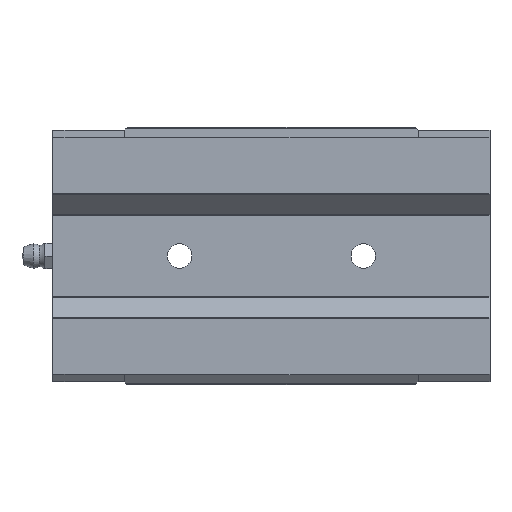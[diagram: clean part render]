
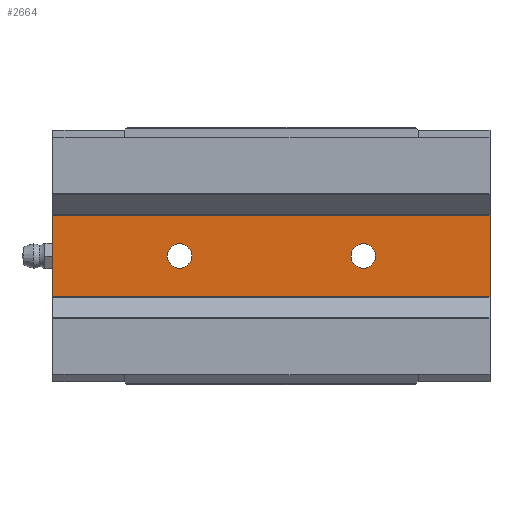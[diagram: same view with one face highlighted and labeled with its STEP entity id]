
A CAD part, front view. The second image highlights one B-rep face of the part: STEP entity #2664.
In plain terms, the highlighted planar face has unit normal (0, -1, 0).
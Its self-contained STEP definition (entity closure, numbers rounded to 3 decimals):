
#185=CIRCLE('',#2916,3.324);
#186=CIRCLE('',#2917,3.324);
#743=ORIENTED_EDGE('',*,*,#1218,.F.);
#744=ORIENTED_EDGE('',*,*,#1219,.F.);
#745=ORIENTED_EDGE('',*,*,#1040,.F.);
#746=ORIENTED_EDGE('',*,*,#1217,.F.);
#747=ORIENTED_EDGE('',*,*,#983,.T.);
#748=ORIENTED_EDGE('',*,*,#1220,.T.);
#983=EDGE_CURVE('',#1339,#1338,#1589,.T.);
#1040=EDGE_CURVE('',#1392,#1393,#1625,.T.);
#1217=EDGE_CURVE('',#1339,#1392,#1775,.T.);
#1218=EDGE_CURVE('',#1491,#1491,#185,.T.);
#1219=EDGE_CURVE('',#1492,#1492,#186,.T.);
#1220=EDGE_CURVE('',#1338,#1393,#1776,.T.);
#1338=VERTEX_POINT('',#3904);
#1339=VERTEX_POINT('',#3906);
#1392=VERTEX_POINT('',#4016);
#1393=VERTEX_POINT('',#4018);
#1491=VERTEX_POINT('',#4376);
#1492=VERTEX_POINT('',#4378);
#1589=LINE('',#3905,#1811);
#1625=LINE('',#4017,#1847);
#1775=LINE('',#4373,#1997);
#1776=LINE('',#4379,#1998);
#1811=VECTOR('',#3103,1000.);
#1847=VECTOR('',#3183,1000.);
#1997=VECTOR('',#3549,1000.);
#1998=VECTOR('',#3556,1000.);
#2113=EDGE_LOOP('',(#743));
#2114=EDGE_LOOP('',(#744));
#2115=EDGE_LOOP('',(#745,#746,#747,#748));
#2347=FACE_BOUND('',#2113,.T.);
#2348=FACE_BOUND('',#2114,.T.);
#2349=FACE_BOUND('',#2115,.T.);
#2550=PLANE('',#2915);
#2664=ADVANCED_FACE('',(#2347,#2348,#2349),#2550,.T.);
#2915=AXIS2_PLACEMENT_3D('',#4374,#3550,#3551);
#2916=AXIS2_PLACEMENT_3D('',#4375,#3552,#3553);
#2917=AXIS2_PLACEMENT_3D('',#4377,#3554,#3555);
#3103=DIRECTION('',(0.,0.,1.));
#3183=DIRECTION('',(0.,0.,1.));
#3549=DIRECTION('',(-1.,0.,0.));
#3550=DIRECTION('',(0.,-1.,0.));
#3551=DIRECTION('',(0.,0.,-1.));
#3552=DIRECTION('',(0.,-1.,0.));
#3553=DIRECTION('',(0.,0.,-1.));
#3554=DIRECTION('',(0.,-1.,0.));
#3555=DIRECTION('',(0.,0.,-1.));
#3556=DIRECTION('',(-1.,0.,0.));
#3904=CARTESIAN_POINT('',(59.5,24.6,15.97));
#3905=CARTESIAN_POINT('',(59.5,24.6,-15.97));
#3906=CARTESIAN_POINT('',(59.5,24.6,-15.97));
#4016=CARTESIAN_POINT('',(-59.5,24.6,-15.97));
#4017=CARTESIAN_POINT('',(-59.5,24.6,-15.97));
#4018=CARTESIAN_POINT('',(-59.5,24.6,15.97));
#4373=CARTESIAN_POINT('',(59.5,24.6,-15.97));
#4374=CARTESIAN_POINT('',(59.5,24.6,-15.97));
#4375=CARTESIAN_POINT('',(-25.,24.6,0.));
#4376=CARTESIAN_POINT('',(-25.,24.6,-3.324));
#4377=CARTESIAN_POINT('',(25.,24.6,0.));
#4378=CARTESIAN_POINT('',(25.,24.6,-3.324));
#4379=CARTESIAN_POINT('',(59.5,24.6,15.97));
